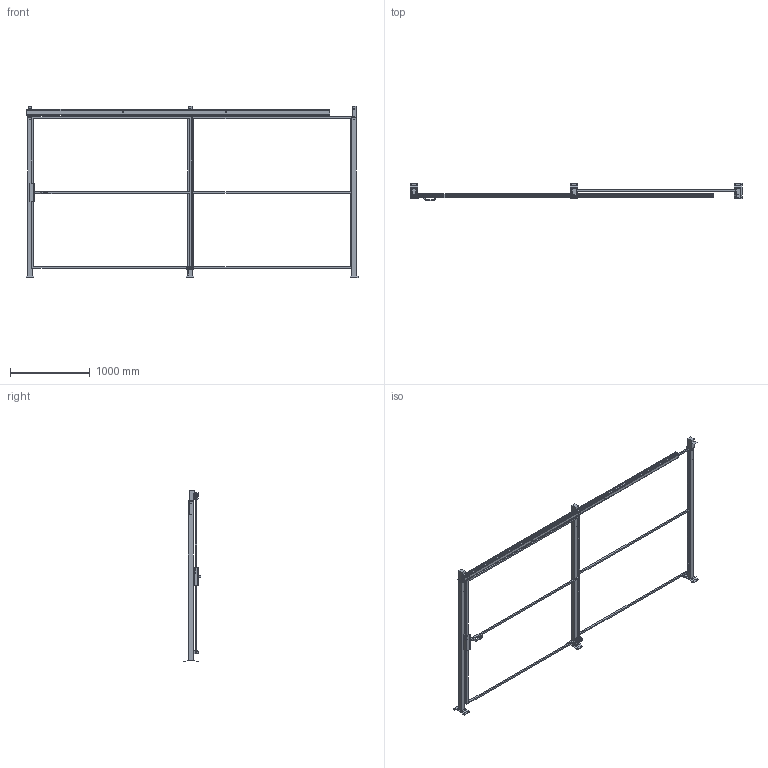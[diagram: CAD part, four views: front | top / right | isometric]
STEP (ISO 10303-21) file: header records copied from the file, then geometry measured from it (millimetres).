
FILE_DESCRIPTION(/* description */ (''),/* implementation_level */ '2;1');
FILE_NAME(/* name */ 'C:\SafeGuarding\ELABORATI\VZOR§POSUVNE_1950x2320_2025-02-13-13-22-44.stp',/* time_stamp */ '2025-02-13T13:22:47+01:00',/* author */ ('admin'),/* organization */ (''),/* preprocessor_version */ 'ST-DEVELOPER v18.1',/* originating_system */ 'AutoCAD Mechanical',/* authorisation */ '');
FILE_SCHEMA (('AUTOMOTIVE_DESIGN { 1 0 10303 214 3 1 1 }'));
Length unit declared in the file: millimetre
Products named in the file (4): Product; VFPA.REPE2020001900; DATI_PORTA; P_VFMA.ME60SDU.2020
Assembly tree (6 placements, depth 2):
  Product
    P_VFMA.ME60SDU.2020  x3
    VFPA.REPE2020001900  x2
    DATI_PORTA
Bounding box: 4170 x 219.95 x 2154 mm (x, y, z)
Volume: 39284522.2 mm3; surface area: 5793888.4 mm2
Topology: 29 solids, 40 shells, 518 faces, 1794 edges, 1732 vertices
Faces by surface type: plane 474, cylinder 42, sphere 2
Full cylindrical faces by diameter (mm): 11 x12, 12 x2, 15 x4, 40 x4
Entity records: 14230 total; most frequent: CARTESIAN_POINT 3005, DIRECTION 2147, ORIENTED_EDGE 2094, EDGE_CURVE 1096, LINE 1079, VECTOR 1079, VERTEX_POINT 772, AXIS2_PLACEMENT_3D 534
